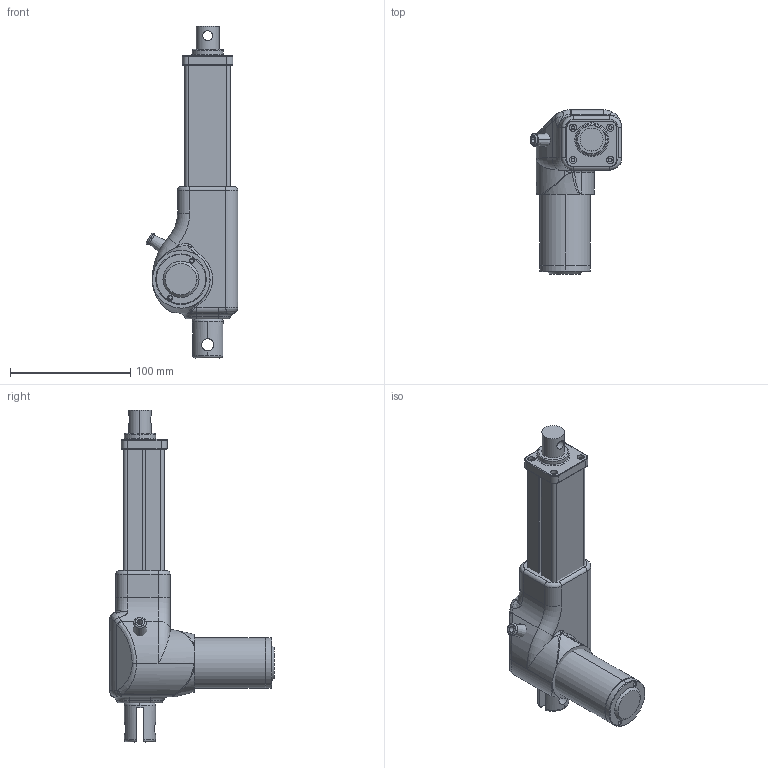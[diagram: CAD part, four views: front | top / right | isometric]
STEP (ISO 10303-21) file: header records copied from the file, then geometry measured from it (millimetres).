
FILE_DESCRIPTION((''),'2;1');
FILE_NAME('LAM2_ASM_ASM','2012-11-06T',('amyliao'),(''),'PRO/ENGINEER BY PARAMETRIC TECHNOLOGY CORPORATION, 2003210','PRO/ENGINEER BY PARAMETRIC TECHNOLOGY CORPORATION, 2003210','');
FILE_SCHEMA(('CONFIG_CONTROL_DESIGN'));
Length unit declared in the file: millimetre
Products named in the file (5): TB; C6F001A1; 01; C6E002A1; LAM2_ASM_ASM
Assembly tree (4 placements, depth 2):
  LAM2_ASM_ASM
    TB
    C6F001A1
    01
    C6E002A1
Bounding box: 76.03 x 136.5 x 276 mm (x, y, z)
Volume: 91855.1 mm3; surface area: 127079.7 mm2
Topology: 3 solids, 8 shells, 359 faces, 1038 edges, 686 vertices
Faces by surface type: cylinder 160, plane 99, torus 47, bspline 37, cone 14, sphere 2
Entity records: 15083 total; most frequent: CARTESIAN_POINT 5672, ORIENTED_EDGE 1970, DIRECTION 1868, EDGE_CURVE 1036, AXIS2_PLACEMENT_3D 708, VERTEX_POINT 686, VECTOR 452, LINE 452
